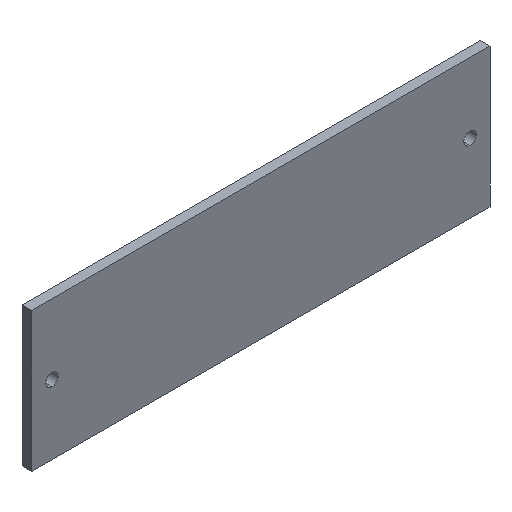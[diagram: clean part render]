
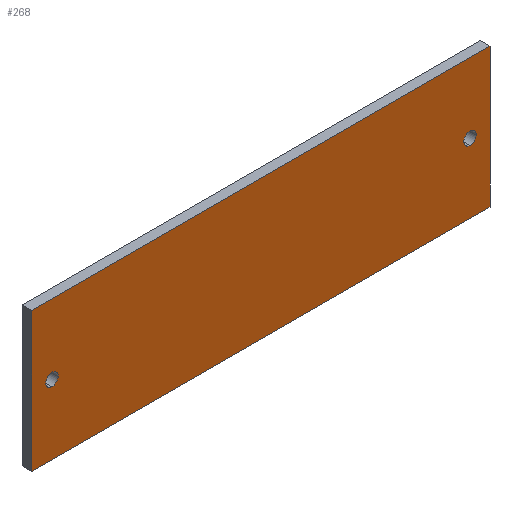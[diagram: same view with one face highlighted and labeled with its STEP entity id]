
A CAD part, isometric view. The second image highlights one B-rep face of the part: STEP entity #268.
In plain terms, the highlighted planar face has unit normal (0, -1, 0).
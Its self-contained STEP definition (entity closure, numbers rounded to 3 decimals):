
#8 = CARTESIAN_POINT ( 'NONE',  ( 46., 0., -14. ) ) ;
#11 = CARTESIAN_POINT ( 'NONE',  ( 46., 0., 14. ) ) ;
#15 = DIRECTION ( 'NONE',  ( 0., 1., 0. ) ) ;
#17 = DIRECTION ( 'NONE',  ( 0., 0., 1. ) ) ;
#18 = CARTESIAN_POINT ( 'NONE',  ( 42., 0., 1.25 ) ) ;
#23 = LINE ( 'NONE', #71, #301 ) ;
#24 = ORIENTED_EDGE ( 'NONE', *, *, #343, .F. ) ;
#26 = ORIENTED_EDGE ( 'NONE', *, *, #205, .F. ) ;
#28 = VECTOR ( 'NONE', #309, 1000. ) ;
#35 = PLANE ( 'NONE',  #134 ) ;
#42 = DIRECTION ( 'NONE',  ( 1., 0., 0. ) ) ;
#54 = ORIENTED_EDGE ( 'NONE', *, *, #161, .T. ) ;
#59 = EDGE_LOOP ( 'NONE', ( #349, #270 ) ) ;
#62 = LINE ( 'NONE', #11, #101 ) ;
#66 = CARTESIAN_POINT ( 'NONE',  ( 42., 0., 0. ) ) ;
#71 = CARTESIAN_POINT ( 'NONE',  ( 46., 0., 14. ) ) ;
#88 = CIRCLE ( 'NONE', #257, 1.25 ) ;
#89 = CARTESIAN_POINT ( 'NONE',  ( -46., 0., 14. ) ) ;
#101 = VECTOR ( 'NONE', #42, 1000. ) ;
#105 = VERTEX_POINT ( 'NONE', #143 ) ;
#114 = LINE ( 'NONE', #120, #28 ) ;
#115 = DIRECTION ( 'NONE',  ( 0., 1., 0. ) ) ;
#120 = CARTESIAN_POINT ( 'NONE',  ( -46., 0., 14. ) ) ;
#133 = VERTEX_POINT ( 'NONE', #8 ) ;
#134 = AXIS2_PLACEMENT_3D ( 'NONE', #252, #115, #17 ) ;
#135 = EDGE_LOOP ( 'NONE', ( #26, #265, #24, #243 ) ) ;
#136 = EDGE_CURVE ( 'NONE', #215, #264, #230, .T. ) ;
#139 = FACE_OUTER_BOUND ( 'NONE', #135, .T. ) ;
#143 = CARTESIAN_POINT ( 'NONE',  ( 42., 0., -1.25 ) ) ;
#148 = DIRECTION ( 'NONE',  ( 0., 0., 1. ) ) ;
#150 = CARTESIAN_POINT ( 'NONE',  ( 46., 0., -14. ) ) ;
#159 = VERTEX_POINT ( 'NONE', #18 ) ;
#161 = EDGE_CURVE ( 'NONE', #264, #215, #327, .T. ) ;
#167 = AXIS2_PLACEMENT_3D ( 'NONE', #275, #169, #148 ) ;
#168 = CARTESIAN_POINT ( 'NONE',  ( -42., 0., -1.25 ) ) ;
#169 = DIRECTION ( 'NONE',  ( 0., 1., 0. ) ) ;
#185 = DIRECTION ( 'NONE',  ( 0., 0., 1. ) ) ;
#199 = CARTESIAN_POINT ( 'NONE',  ( -42., 0., 0. ) ) ;
#202 = DIRECTION ( 'NONE',  ( 0., 1., 0. ) ) ;
#205 = EDGE_CURVE ( 'NONE', #344, #223, #114, .T. ) ;
#206 = DIRECTION ( 'NONE',  ( 0., 0., 1. ) ) ;
#208 = DIRECTION ( 'NONE',  ( -1., 0., 0. ) ) ;
#215 = VERTEX_POINT ( 'NONE', #231 ) ;
#216 = DIRECTION ( 'NONE',  ( 0., 1., 0. ) ) ;
#218 = ORIENTED_EDGE ( 'NONE', *, *, #136, .T. ) ;
#222 = VERTEX_POINT ( 'NONE', #227 ) ;
#223 = VERTEX_POINT ( 'NONE', #89 ) ;
#227 = CARTESIAN_POINT ( 'NONE',  ( 46., 0., 14. ) ) ;
#230 = CIRCLE ( 'NONE', #246, 1.25 ) ;
#231 = CARTESIAN_POINT ( 'NONE',  ( -42., 0., 1.25 ) ) ;
#240 = AXIS2_PLACEMENT_3D ( 'NONE', #316, #216, #185 ) ;
#242 = EDGE_CURVE ( 'NONE', #105, #159, #88, .T. ) ;
#243 = ORIENTED_EDGE ( 'NONE', *, *, #249, .F. ) ;
#246 = AXIS2_PLACEMENT_3D ( 'NONE', #199, #15, #280 ) ;
#249 = EDGE_CURVE ( 'NONE', #223, #222, #62, .T. ) ;
#252 = CARTESIAN_POINT ( 'NONE',  ( -46., 0., -14. ) ) ;
#257 = AXIS2_PLACEMENT_3D ( 'NONE', #66, #202, #206 ) ;
#264 = VERTEX_POINT ( 'NONE', #168 ) ;
#265 = ORIENTED_EDGE ( 'NONE', *, *, #291, .F. ) ;
#268 = ADVANCED_FACE ( 'NONE', ( #277, #281, #139 ), #35, .F. ) ;
#269 = CIRCLE ( 'NONE', #240, 1.25 ) ;
#270 = ORIENTED_EDGE ( 'NONE', *, *, #242, .T. ) ;
#275 = CARTESIAN_POINT ( 'NONE',  ( -42., 0., 0. ) ) ;
#277 = FACE_BOUND ( 'NONE', #303, .T. ) ;
#280 = DIRECTION ( 'NONE',  ( 0., 0., 1. ) ) ;
#281 = FACE_BOUND ( 'NONE', #59, .T. ) ;
#284 = EDGE_CURVE ( 'NONE', #159, #105, #269, .T. ) ;
#289 = LINE ( 'NONE', #150, #326 ) ;
#291 = EDGE_CURVE ( 'NONE', #133, #344, #289, .T. ) ;
#301 = VECTOR ( 'NONE', #323, 1000. ) ;
#303 = EDGE_LOOP ( 'NONE', ( #218, #54 ) ) ;
#309 = DIRECTION ( 'NONE',  ( 0., 0., 1. ) ) ;
#316 = CARTESIAN_POINT ( 'NONE',  ( 42., 0., 0. ) ) ;
#321 = CARTESIAN_POINT ( 'NONE',  ( -46., 0., -14. ) ) ;
#323 = DIRECTION ( 'NONE',  ( 0., 0., -1. ) ) ;
#326 = VECTOR ( 'NONE', #208, 1000. ) ;
#327 = CIRCLE ( 'NONE', #167, 1.25 ) ;
#343 = EDGE_CURVE ( 'NONE', #222, #133, #23, .T. ) ;
#344 = VERTEX_POINT ( 'NONE', #321 ) ;
#349 = ORIENTED_EDGE ( 'NONE', *, *, #284, .T. ) ;
